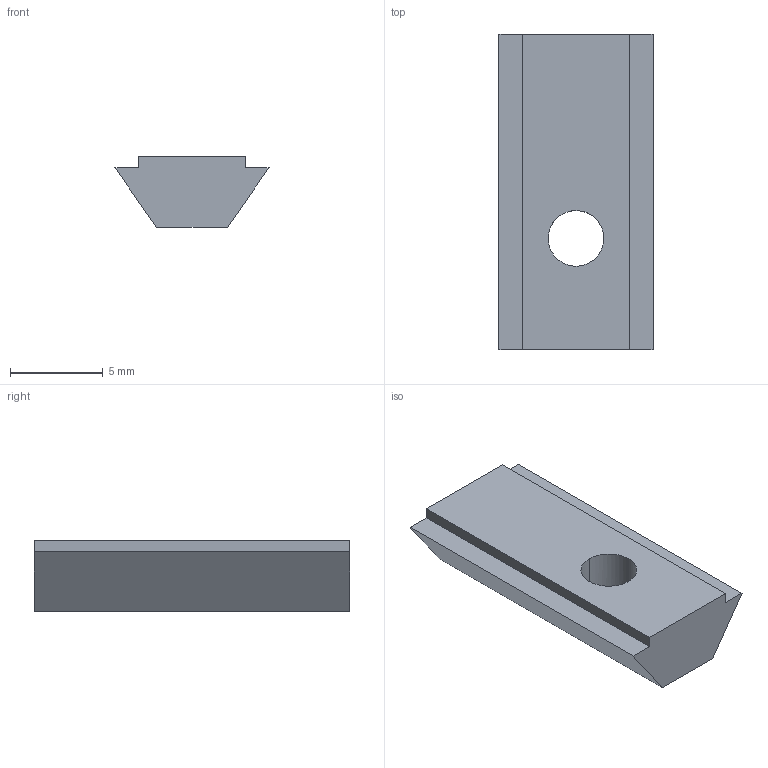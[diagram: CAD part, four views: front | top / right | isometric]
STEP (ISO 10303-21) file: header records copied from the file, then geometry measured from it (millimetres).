
FILE_DESCRIPTION(/* description */ (''),/* implementation_level */ '2;1');
FILE_NAME(/* name */ '11.air-assist#11.1#HNTE5-3',/* time_stamp */ '2014-12-01T20:19:37+01:00',/* author */ (''),/* organization */ (''),/* preprocessor_version */ 'ST-DEVELOPER v14',/* originating_system */ '',/* authorisation */ '');
FILE_SCHEMA (('AUTOMOTIVE_DESIGN'));
Length unit declared in the file: millimetre
Products named in the file (2): Document; nut tslot, post, M3
Assembly tree (1 placements, depth 2):
  Document
    nut tslot, post, M3
Bounding box: 8.3 x 17 x 3.8 mm (x, y, z)
Volume: 361.9 mm3; surface area: 426.6 mm2
Topology: 1 solids, 1 shells, 12 faces, 30 edges, 20 vertices
Faces by surface type: plane 10, bspline 2
Entity records: 802 total; most frequent: CARTESIAN_POINT 330, B_SPLINE_CURVE_WITH_KNOTS 84, ORIENTED_EDGE 60, PCURVE 60, DEFINITIONAL_REPRESENTATION 60, SURFACE_CURVE 30, EDGE_CURVE 30, VERTEX_POINT 20
